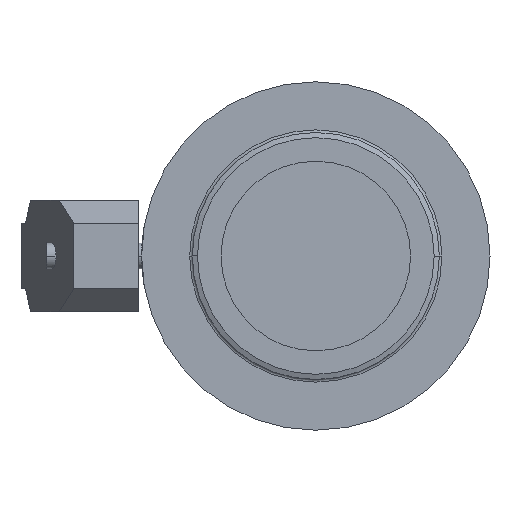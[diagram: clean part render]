
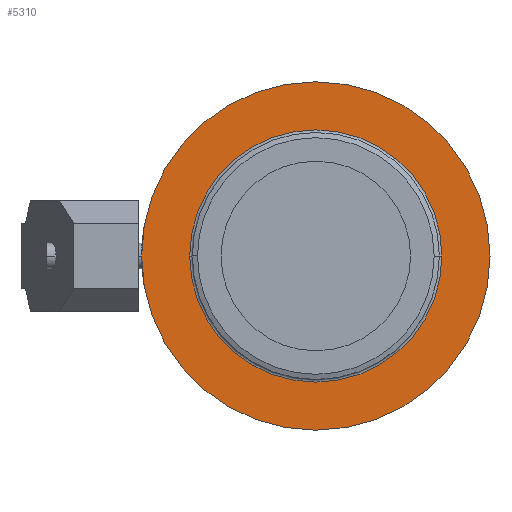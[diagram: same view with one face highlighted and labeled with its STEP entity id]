
A CAD part, left-side view. The second image highlights one B-rep face of the part: STEP entity #5310.
In plain terms, the highlighted planar face has unit normal (-1, 0, 0).
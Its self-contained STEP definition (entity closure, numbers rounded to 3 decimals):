
#2710=CARTESIAN_POINT('',(67.54,16.705,0.));
#2720=VERTEX_POINT('',#2710);
#4920=CARTESIAN_POINT('',(67.54,-117.295,
0.));
#4930=VERTEX_POINT('',#4920);
#4960=CARTESIAN_POINT('',(67.54,-50.295,0.));
#4970=DIRECTION('',(-1.,0.,0.));
#4980=DIRECTION('',(0.,1.,0.));
#4990=AXIS2_PLACEMENT_3D('',#4960,#4970,#4980);
#5000=CIRCLE('',#4990,67.);
#5010=EDGE_CURVE('',#4930,#2720,#5000,.T.);
#5060=CARTESIAN_POINT('',(67.54,0.805,0.));
#5070=DIRECTION('',(1.,0.,0.));
#5080=DIRECTION('',(0.,1.,0.));
#5090=AXIS2_PLACEMENT_3D('',#5060,#5070,#5080);
#5100=PLANE('',#5090);
#5110=EDGE_CURVE('',#2720,#4930,#5000,.T.);
#5120=ORIENTED_EDGE('',*,*,#5110,.T.);
#5130=ORIENTED_EDGE('',*,*,#5010,.T.);
#5140=EDGE_LOOP('',(#5130,#5120));
#5150=FACE_OUTER_BOUND('',#5140,.T.);
#5160=CARTESIAN_POINT('',(67.54,-50.295,0.));
#5170=DIRECTION('',(-1.,0.,0.));
#5180=DIRECTION('',(0.,1.,0.));
#5190=AXIS2_PLACEMENT_3D('',#5160,#5170,#5180);
#5200=CIRCLE('',#5190,48.5);
#5210=CARTESIAN_POINT('',(67.54,-1.795,0.));
#5220=VERTEX_POINT('',#5210);
#5230=CARTESIAN_POINT('',(67.54,-98.795,0.));
#5240=VERTEX_POINT('',#5230);
#5250=EDGE_CURVE('',#5220,#5240,#5200,.T.);
#5260=ORIENTED_EDGE('',*,*,#5250,.F.);
#5270=EDGE_CURVE('',#5240,#5220,#5200,.T.);
#5280=ORIENTED_EDGE('',*,*,#5270,.F.);
#5290=EDGE_LOOP('',(#5280,#5260));
#5300=FACE_BOUND('',#5290,.T.);
#5310=ADVANCED_FACE('',(#5150,#5300),#5100,.F.);
